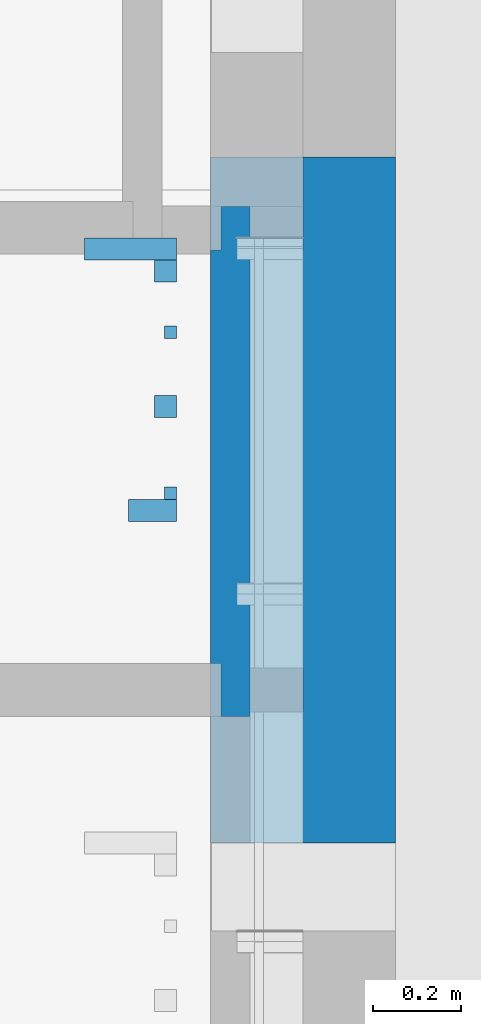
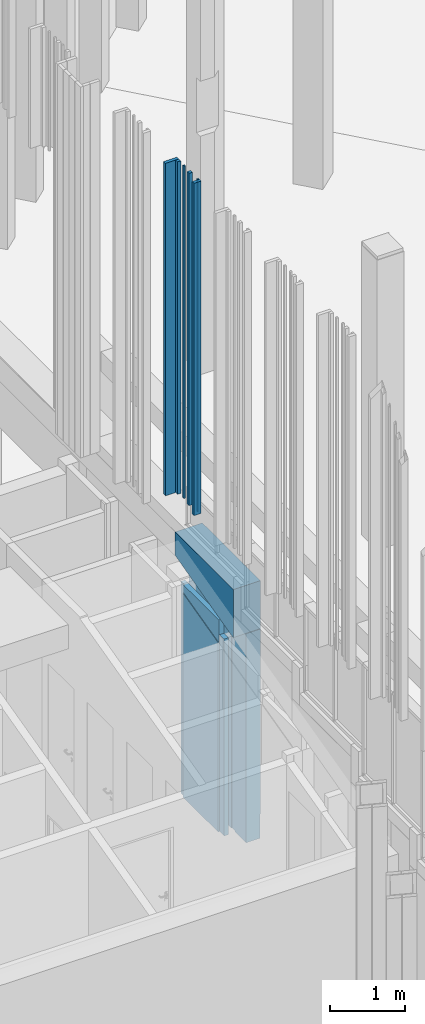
# One storey, part 124 of 390: 9 walls.
"""IFC2X3 building model written with IfcOpenShell, lengths in millimetres."""

from ifc_helpers import new_model, entity, si_unit, converted_unit, derived_unit, money_unit, direction, frame, origin_with_axes, place, context, subcontext, project, spatial, faceted_brep, material, material_list, type_object, element, save


model = new_model("IFC2X3")

# Units and contexts
model_context = context("Model", 3, precision=1e-05, world=origin_with_axes(), true_north=direction((0.0, 1.0)))
body_context = subcontext(model_context, "Body", "Model", "MODEL_VIEW")
ifc_project = project(units=[si_unit("LENGTHUNIT", "METRE", prefix="MILLI"), si_unit("AREAUNIT", "SQUARE_METRE"), si_unit("VOLUMEUNIT", "CUBIC_METRE"), converted_unit("PLANEANGLEUNIT", "DEGREE", entity("IfcPlaneAngleMeasure", 0.0174532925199), si_unit("PLANEANGLEUNIT", "RADIAN"), dimensions=[0, 0, 0, 0, 0, 0, 0]), si_unit("SOLIDANGLEUNIT", "STERADIAN"), money_unit("EUR"), converted_unit("TIMEUNIT", "Year", entity("IfcTimeMeasure", 31556926.0), si_unit("TIMEUNIT", "SECOND"), dimensions=[0, 0, 1, 0, 0, 0, 0]), si_unit("MASSUNIT", "GRAM", prefix="KILO"), si_unit("THERMODYNAMICTEMPERATUREUNIT", "DEGREE_CELSIUS"), si_unit("LUMINOUSINTENSITYUNIT", "LUMEN"), si_unit("ENERGYUNIT", "JOULE", prefix="MEGA"), derived_unit("THERMALCONDUCTANCEUNIT", [(si_unit("POWERUNIT", "WATT"), 1), (si_unit("LENGTHUNIT", "METRE"), -1), (si_unit("THERMODYNAMICTEMPERATUREUNIT", "KELVIN"), -1)]), derived_unit("SPECIFICHEATCAPACITYUNIT", [(si_unit("ENERGYUNIT", "JOULE"), 1), (si_unit("MASSUNIT", "GRAM", prefix="KILO"), -1), (si_unit("THERMODYNAMICTEMPERATUREUNIT", "KELVIN"), -1)]), derived_unit("MASSDENSITYUNIT", [(si_unit("MASSUNIT", "GRAM", prefix="KILO"), 1), (si_unit("VOLUMEUNIT", "CUBIC_METRE"), -1)])], contexts=[model_context])

# Site, building, storey
site_placement = place(None, origin_with_axes())
site = spatial("IfcSite", under=ifc_project, at=site_placement, Name="Site", CompositionType="ELEMENT")
building_placement = place(site_placement, origin_with_axes())
building = spatial("IfcBuilding", under=site, at=building_placement, Name="Building", CompositionType="ELEMENT")
storey_placement = place(building_placement, origin_with_axes())
storey = spatial("IfcBuildingStorey", under=building, at=storey_placement, Name="1 korrus", CompositionType="ELEMENT", Elevation=0.0)

# Walls
ifc_material_1 = material(Name="Krohv - Lubjakivi")
ifc_material_2 = material(Name="Raudbetoon - Konstruktsioon")
ifc_material_list_1 = material_list([ifc_material_1, ifc_material_2, ifc_material_1])
wall_type_1 = type_object("IfcWallType", Name="SS-10", PredefinedType="NOTDEFINED")
wall_1_placement = place(storey_placement, frame((122909.999995, 62812.5685601, -620.0), z_axis=(0.0, 0.0, 1.0), x_axis=(0.0, 1.0, 0.0)))
element("IfcWall", 1, at=wall_1_placement, inside=storey, type_object=wall_type_1, material=ifc_material_list_1, Name="SS-10", context=body_context, shape_type="Brep", body=[
    faceted_brep([(1558.01836367, 220.000000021, 3830.26155268), (1558.01836367, 210.000000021, 3830.26155268), (1558.01836367, 209.999987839, 3520.23675989), (1558.01836367, 220.000000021, 3520.23675989), (-2.82085466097e-09, 210.0, 3424.13396575), (-2.9487523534e-09, 220.0, 3424.13396575), (-2.82085466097e-09, 210.0, 0.0), (297.431449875, 210.000000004, 0.0), (297.431449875, 210.000000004, 3220.31405444), (397.431449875, 210.000000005, 3220.31405444), (397.431449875, 210.000000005, 0.0), (1347.43144987, 210.000000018, 0.0), (1347.43144987, 210.000000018, 3494.01683805), (1435.99997017, 209.999989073, 3494.01683805), (1435.99997017, 210.000000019, 3520.23675989), (1445.99997017, 209.999987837, 3520.23675989), (1435.99997017, 220.000000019, 3520.23675989), (1435.99997017, 220.000000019, 3494.01683805), (1347.43144987, 220.000000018, 3494.01683805), (1347.43144987, 220.000000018, 0.0), (397.431449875, 220.000000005, 0.0), (397.431449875, 220.000000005, 3220.31405444), (297.431449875, 220.000000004, 3220.31405444), (297.431449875, 220.000000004, 0.0), (-2.9487523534e-09, 220.0, 0.0)], [[[0, 1, 2, 3]], [[4, 1, 0, 5]], [[1, 4, 6, 7, 8, 9, 10, 11, 12, 13, 14, 15, 2]], [[2, 15, 14, 16, 3]], [[5, 0, 3, 16, 17, 18, 19, 20, 21, 22, 23, 24]], [[4, 5, 24, 6]], [[6, 24, 23, 7]], [[23, 22, 8, 7]], [[22, 21, 9, 8]], [[21, 20, 10, 9]], [[19, 11, 10, 20]], [[19, 18, 12, 11]], [[18, 17, 13, 12]], [[16, 14, 13, 17]]]),
    faceted_brep([(1558.01836367, 210.000000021, 3830.26155268), (1558.01836368, 10.0000000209, 3830.26155266), (1558.01836368, 10.0000000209, 0.0), (1558.01836367, 210.000000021, 0.0), (-1.35003119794e-10, 10.0, 3424.13396573), (-2.82085466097e-09, 210.0, 3424.13396575), (-1.35003119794e-10, 10.0, 0.0), (-2.82085466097e-09, 210.0, 0.0)], [[[0, 1, 2, 3]], [[4, 1, 0, 5]], [[1, 4, 6, 2]], [[7, 3, 2, 6]], [[5, 0, 3, 7]], [[4, 5, 7, 6]]]),
    faceted_brep([(1558.01836368, 10.0000000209, 3830.26155266), (1558.01836368, 2.08899564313e-08, 3830.26155266), (1558.01836368, 2.08899564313e-08, 400.0), (1558.01836368, 9.9999970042, 400.0), (0.0, 0.0, 3424.13396573), (-1.35003119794e-10, 9.99999964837, 3424.13396573), (0.0, 0.0, 400.0), (-1.35003119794e-10, 9.99999702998, 400.0)], [[[0, 1, 2, 3]], [[4, 1, 0, 5]], [[1, 4, 6, 2]], [[7, 3, 2, 6]], [[5, 0, 3, 7]], [[4, 5, 7, 6]]]),
])
ifc_material_3 = material(Name="Membraan - Veekindel")
ifc_material_4 = material(Name="Soojustus - Plastik Kõva")
ifc_material_list_2 = material_list([ifc_material_3, ifc_material_3, ifc_material_4, ifc_material_4, ifc_material_2, ifc_material_1])
wall_type_2 = type_object("IfcWallType", Name="VS-03", PredefinedType="NOTDEFINED")
wall_2_placement = place(storey_placement, frame((122909.999995, 62812.5685666, 2808.02560869), z_axis=(0.0, 0.0, 1.0), x_axis=(0.0, 1.0, 0.0)))
element("IfcWall", 2, at=wall_2_placement, inside=storey, type_object=wall_type_2, material=ifc_material_list_2, Name="VS-03", context=body_context, shape_type="Brep", body=[
    faceted_brep([(14.929417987, 415.0, 0.0), (1558.01835715, 415.000000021, 402.235943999), (1558.01835715, 415.000000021, 786.974391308), (-5.563549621e-09, 415.0, 786.974391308), (-5.563549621e-09, 415.0, 0.0), (1558.01835715, 420.000000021, 402.235944), (14.9294179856, 420.0, 0.0), (1558.01835715, 420.000000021, 786.974391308), (-5.63460389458e-09, 420.0, 786.974391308), (-5.63460389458e-09, 420.0, 0.0)], [[[0, 1, 2, 3, 4]], [[5, 1, 0, 6]], [[1, 5, 7, 2]], [[3, 2, 7, 8]], [[8, 9, 4, 3]], [[6, 0, 4, 9]], [[5, 6, 9, 8, 7]]]),
    faceted_brep([(14.9294179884, 410.0, 0.0), (1558.01835715, 410.000000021, 402.235943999), (1558.01835715, 410.000000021, 786.974391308), (-5.49960077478e-09, 410.0, 786.974391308), (-5.49960077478e-09, 410.0, 0.0), (1558.01835715, 415.000000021, 402.235943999), (14.929417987, 415.0, 0.0), (1558.01835715, 415.000000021, 786.974391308), (-5.563549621e-09, 415.0, 786.974391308), (-5.563549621e-09, 415.0, 0.0)], [[[0, 1, 2, 3, 4]], [[5, 1, 0, 6]], [[1, 5, 7, 2]], [[3, 2, 7, 8]], [[8, 9, 4, 3]], [[6, 0, 4, 9]], [[5, 6, 9, 8, 7]]]),
    faceted_brep([(14.9294180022, 360.0, 0.0), (1558.01835715, 360.000000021, 402.235943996), (1558.01835715, 360.000000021, 786.974391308), (-4.83169060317e-09, 360.0, 786.974391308), (-4.83169060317e-09, 360.0, 0.0), (1558.01835715, 410.000000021, 402.235943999), (14.9294179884, 410.0, 0.0), (1558.01835715, 410.000000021, 786.974391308), (-5.49960077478e-09, 410.0, 786.974391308), (-5.49960077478e-09, 410.0, 0.0)], [[[0, 1, 2, 3, 4]], [[5, 1, 0, 6]], [[1, 5, 7, 2]], [[3, 2, 7, 8]], [[8, 9, 4, 3]], [[6, 0, 4, 9]], [[5, 6, 9, 8, 7]]]),
    faceted_brep([(14.9294180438, 210.0, 0.0), (1558.01835715, 210.000000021, 402.235943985), (1558.01835715, 210.000000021, 786.974391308), (-2.82085466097e-09, 210.0, 786.974391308), (-2.82085466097e-09, 210.0, 0.0), (1558.01835715, 360.000000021, 402.235943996), (14.9294180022, 360.0, 0.0), (1558.01835715, 360.000000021, 786.974391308), (-4.83169060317e-09, 360.0, 786.974391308), (-4.83169060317e-09, 360.0, 0.0)], [[[0, 1, 2, 3, 4]], [[5, 1, 0, 6]], [[1, 5, 7, 2]], [[3, 2, 7, 8]], [[8, 9, 4, 3]], [[6, 0, 4, 9]], [[5, 6, 9, 8, 7]]]),
    faceted_brep([(14.9294180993, 10.0000000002, 0.0), (1558.01835715, 10.0000000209, 402.235943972), (1558.01835715, 10.0000000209, 786.974391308), (-1.35003119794e-10, 10.0, 786.974391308), (-1.35003119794e-10, 10.0, 0.0), (1558.01835715, 210.000000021, 402.235943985), (14.9294180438, 210.0, 0.0), (1558.01835715, 210.000000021, 786.974391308), (-2.82085466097e-09, 210.0, 786.974391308), (-2.82085466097e-09, 210.0, 0.0)], [[[0, 1, 2, 3, 4]], [[5, 1, 0, 6]], [[1, 5, 7, 2]], [[3, 2, 7, 8]], [[8, 9, 4, 3]], [[6, 0, 4, 9]], [[5, 6, 9, 8, 7]]]),
    faceted_brep([(14.9294181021, 1.98951966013e-10, 0.0), (1558.01835715, 2.08899564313e-08, 402.235943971), (1558.01835715, 2.08899564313e-08, 786.974391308), (0.0, 0.0, 786.974391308), (0.0, 0.0, 0.0), (1558.01835715, 10.0000000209, 402.235943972), (14.9294180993, 10.0000000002, 0.0), (1558.01835715, 10.0000000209, 786.974391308), (-1.35003119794e-10, 10.0, 786.974391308), (-1.35003119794e-10, 10.0, 0.0)], [[[0, 1, 2, 3, 4]], [[5, 1, 0, 6]], [[1, 5, 7, 2]], [[3, 2, 7, 8]], [[8, 9, 4, 3]], [[6, 0, 4, 9]], [[5, 6, 9, 8, 7]]]),
])
ifc_material_5 = material(Name="Site specified")
wall_type_3 = type_object("IfcWallType", Name="Puitfassaadi ribistik", PredefinedType="NOTDEFINED")
wall_3_placement = place(storey_placement, frame((122398.999996, 63607.0003213, 4424.99966101), z_axis=(0.0, 0.0, 1.0), x_axis=(-4.22595063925e-09, 1.0, 0.0)))
element("IfcWall", 3, at=wall_3_placement, inside=storey, type_object=wall_type_3, material=ifc_material_5, Name="Site specified", context=body_context, shape_type="Brep", body=[
    faceted_brep([(14.0, 14.0, 5440.00033899), (14.0, 14.0, 0.0), (-14.0, 14.0, 0.0), (-14.0, 14.0, 5440.00033899), (14.0, -14.0, 5440.00033899), (14.0, -14.0, 0.0), (-14.0, -14.0, 0.0), (-14.0, -14.0, 5440.00033899)], [[[0, 1, 2, 3]], [[4, 5, 1, 0]], [[2, 1, 5, 6]], [[3, 2, 6, 7]], [[4, 0, 3, 7]], [[7, 6, 5, 4]]]),
])
wall_4_placement = place(storey_placement, frame((122387.999993, 64112.0003213, 4424.99966101), z_axis=(0.0, 0.0, 1.0), x_axis=(-4.22595063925e-09, 1.0, 0.0)))
element("IfcWall", 4, at=wall_4_placement, inside=storey, type_object=wall_type_3, material=ifc_material_5, Name="Site specified", context=body_context, shape_type="Brep", body=[
    faceted_brep([(25.0, 25.0, 5440.00033899), (25.0, 25.0, 0.0), (-25.0, 25.0, 0.0), (-25.0, 25.0, 5440.00033899), (25.0, -25.0, 5440.00033899), (25.0, -25.0, 0.0), (-25.0, -25.0, 0.0), (-25.0, -25.0, 5440.00033899)], [[[0, 1, 2, 3]], [[4, 5, 1, 0]], [[2, 1, 5, 6]], [[3, 2, 6, 7]], [[4, 0, 3, 7]], [[7, 6, 5, 4]]]),
])
wall_5_placement = place(storey_placement, frame((122358.499996, 63568.0003212, 4424.99966101), z_axis=(0.0, 0.0, 1.0), x_axis=(-4.22595063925e-09, 1.0, 0.0)))
element("IfcWall", 5, at=wall_5_placement, inside=storey, type_object=wall_type_3, material=ifc_material_5, Name="Site specified", context=body_context, shape_type="Brep", body=[
    faceted_brep([(25.0, 54.5, 5440.00033899), (25.0, 54.5, 0.0), (-25.0, 54.5, 0.0), (-25.0, 54.5, 5440.00033899), (25.0, -54.5, 5440.00033899), (25.0, -54.5, 0.0), (-25.0, -54.5, 0.0), (-25.0, -54.5, 5440.00033899)], [[[0, 1, 2, 3]], [[4, 5, 1, 0]], [[2, 1, 5, 6]], [[3, 2, 6, 7]], [[4, 0, 3, 7]], [[7, 6, 5, 4]]]),
])
wall_6_placement = place(storey_placement, frame((122398.999994, 63973.0003213, 4424.99966101), z_axis=(0.0, 0.0, 1.0), x_axis=(-4.22595063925e-09, 1.0, 0.0)))
element("IfcWall", 6, at=wall_6_placement, inside=storey, type_object=wall_type_3, material=ifc_material_5, Name="Site specified", context=body_context, shape_type="Brep", body=[
    faceted_brep([(14.0, 14.0, 5440.00033899), (14.0, 14.0, 0.0), (-14.0, 14.0, 0.0), (-14.0, 14.0, 5440.00033899), (14.0, -14.0, 5440.00033899), (14.0, -14.0, 0.0), (-14.0, -14.0, 0.0), (-14.0, -14.0, 5440.00033899)], [[[0, 1, 2, 3]], [[4, 5, 1, 0]], [[2, 1, 5, 6]], [[3, 2, 6, 7]], [[4, 0, 3, 7]], [[7, 6, 5, 4]]]),
])
wall_7_placement = place(storey_placement, frame((122387.999995, 63804.0003213, 4424.99966101), z_axis=(0.0, 0.0, 1.0), x_axis=(-4.22595063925e-09, 1.0, 0.0)))
element("IfcWall", 7, at=wall_7_placement, inside=storey, type_object=wall_type_3, material=ifc_material_5, Name="Site specified", context=body_context, shape_type="Brep", body=[
    faceted_brep([(25.0, 25.0, 5440.00033899), (25.0, 25.0, 0.0), (-25.0, 25.0, 0.0), (-25.0, 25.0, 5440.00033899), (25.0, -25.0, 5440.00033899), (25.0, -25.0, 0.0), (-25.0, -25.0, 0.0), (-25.0, -25.0, 5440.00033899)], [[[0, 1, 2, 3]], [[4, 5, 1, 0]], [[2, 1, 5, 6]], [[3, 2, 6, 7]], [[4, 0, 3, 7]], [[7, 6, 5, 4]]]),
])
wall_8_placement = place(storey_placement, frame((122308.499993, 64162.000321, 4424.99966101), z_axis=(0.0, 0.0, 1.0), x_axis=(-4.22595063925e-09, 1.0, 0.0)))
element("IfcWall", 8, at=wall_8_placement, inside=storey, type_object=wall_type_3, material=ifc_material_5, Name="Site specified", context=body_context, shape_type="Brep", body=[
    faceted_brep([(25.0, 104.5, 5440.00033899), (25.0, 104.5, 0.0), (-25.0, 104.5, 0.0), (-25.0, 104.5, 5440.00033899), (25.0, -104.5, 5440.00033899), (25.0, -104.5, 0.0), (-25.0, -104.5, 0.0), (-25.0, -104.5, 5440.00033899)], [[[0, 1, 2, 3]], [[4, 5, 1, 0]], [[2, 1, 5, 6]], [[3, 2, 6, 7]], [[4, 0, 3, 7]], [[7, 6, 5, 4]]]),
])
ifc_material_6 = material(Name="Kipsplaat - Veekindel")
ifc_material_7 = material(Name="Teras")
ifc_material_list_3 = material_list([ifc_material_6, ifc_material_6, ifc_material_7])
wall_type_4 = type_object("IfcWallType", Name="SS-14", PredefinedType="NOTDEFINED")
wall_9_placement = place(storey_placement, frame((122490.000001, 63220.00001, -620.0), z_axis=(0.0, 0.0, 1.0), x_axis=(-2.27891551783e-09, 1.0, 0.0)))
element("IfcWall", 9, at=wall_9_placement, inside=storey, type_object=wall_type_4, material=ifc_material_list_3, Name="SS-14", context=body_context, shape_type="Brep", body=[
    faceted_brep([(940.0, 2.1955770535e-08, 3337.4417608), (939.999999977, -10.0000014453, 3337.4417608), (939.999999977, -10.0000014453, 3465.34321287), (939.999999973, -12.0000021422, 3465.34321287), (939.999999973, -12.0000021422, 0.0), (940.0, 0.0, 0.0), (0.0, 1.28005694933e-06, 3098.71217311), (-2.27942109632e-08, -9.99999914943, 3098.71217311), (1.82311055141e-07, -9.99999901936, 3465.34321287), (1.77756476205e-07, -12.0, 3465.34321287), (-2.73487898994e-08, -12.0, 0.0), (0.0, 0.0, 0.0)], [[[0, 1, 2, 3, 4, 5]], [[1, 0, 6, 7]], [[2, 1, 7, 8]], [[2, 8, 9, 3]], [[10, 4, 3, 9]], [[11, 5, 4, 10]], [[6, 0, 5, 11]], [[7, 6, 11, 10, 9, 8]]]),
    faceted_brep([(939.999999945, -24.0000021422, 0.0), (939.999999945, -24.000002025, 3465.34321287), (1.50407686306e-07, -23.999998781, 3465.34321287), (-5.46975797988e-08, -23.999998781, 3220.31405444), (-5.46975797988e-08, -24.0, 0.0), (939.999999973, -12.0000021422, 3465.34321287), (939.999999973, -12.0000021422, 0.0), (1.77756476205e-07, -12.0, 3465.34321287), (-2.73487898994e-08, -12.0, 3220.31405444), (-2.73487898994e-08, -12.0, 0.0)], [[[0, 1, 2, 3, 4]], [[5, 1, 0, 6]], [[1, 5, 7, 2]], [[8, 9, 4, 3, 2, 7]], [[6, 0, 4, 9]], [[5, 6, 9, 8, 7]]]),
    faceted_brep([(1038.56852009, -90.0000023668, 0.0), (1038.56852009, -90.0000023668, 3465.34321287), (0.0, -90.0, 3465.34321287), (0.0, -90.0, 3220.31405444), (-120.000000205, -89.9999997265, 3220.31405444), (-120.000000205, -89.9999997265, 0.0), (1038.56852024, -24.0000023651, 3465.34321287), (1038.56852024, -24.0000023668, 0.0), (1.50407686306e-07, -23.999998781, 3465.34321287), (1.50407686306e-07, -23.999998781, 3220.31405444), (-120.000000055, -23.9999985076, 3220.31405444), (-120.000000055, -23.9999997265, 0.0)], [[[0, 1, 2, 3, 4, 5]], [[6, 1, 0, 7]], [[1, 6, 8, 2]], [[8, 9, 3, 2]], [[9, 10, 4, 3]], [[11, 5, 4, 10]], [[7, 0, 5, 11]], [[6, 7, 11, 10, 9, 8]]]),
])

save(model, "model.ifc")
